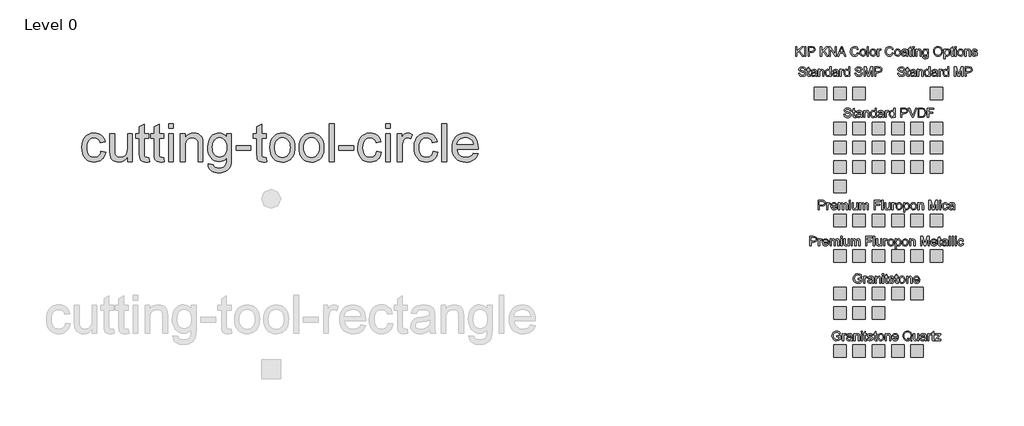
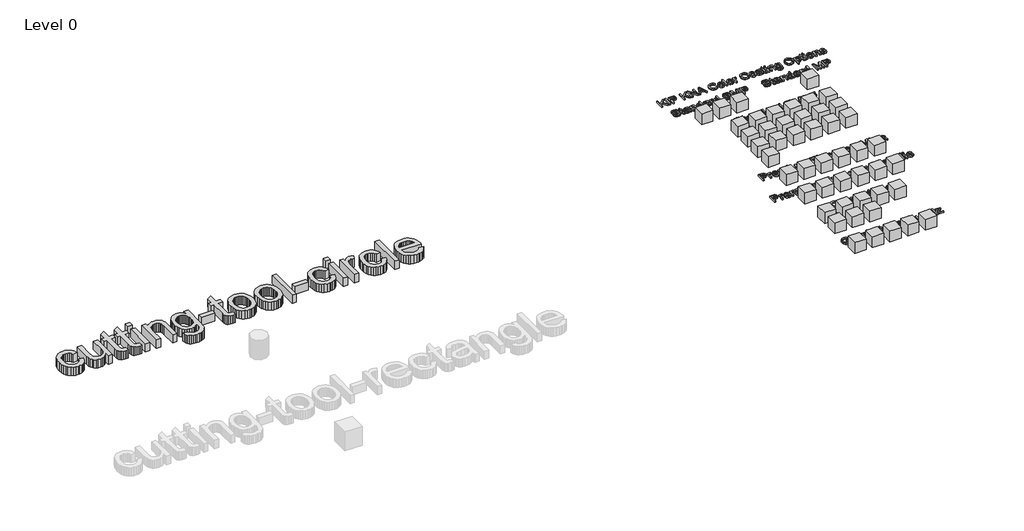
# One storey, part 5 of 5: 50 proxies.
"""IFC4 building model written with IfcOpenShell, lengths in millimetres."""

from ifc_helpers import new_model, si_unit, origin, origin_with_axes, place, context, project, spatial, polyline, outline, extrude, transform, mapped, element, save
from components import ks_color_sample_ks_color_sample_0243efec, r19_kna_color_range_kingspan_quadcore_4278cd54, r19_kna_color_range_kingspan_quadcore_c5814d20, r19_kna_color_range_kingspan_quadcore_91b79b7c

model = new_model("IFC4")

# Units and contexts
model_context = context("Model", 3, world=origin())
ifc_project = project(units=[si_unit("LENGTHUNIT", "METRE", prefix="MILLI")], contexts=[model_context])

# Site, building, storey
site = spatial("IfcSite", under=ifc_project)
building = spatial("IfcBuilding", under=site)
storey = spatial("IfcBuildingStorey", under=building, Name="Level 0", Elevation=0.0)

# Proxies
placement = place(None, origin())
element("IfcBuildingElementProxy", 1, Name="24\" Arial", ObjectType="24\" Arial", at=placement, inside=storey, context=model_context, shape_type="SweptSolid", body=[
    extrude(outline(polyline([(620.0310219, 12708.8914147), (696.1727954, 12699.373693), (687.8912622, 12663.4452231), (674.9438146, 12631.6528725), (657.3304527, 12603.9966411), (635.0511764, 12580.4765291), (609.0447455, 12561.7059832), (580.2499195, 12548.2984505), (548.6666985, 12540.2539308), (514.2950825, 12537.5724243), (471.5908126, 12541.3135209), (433.3015016, 12552.5368109), (399.4271494, 12571.2422942), (369.9677559, 12597.4299708), (346.1223311, 12630.6072243), (329.0898848, 12670.2814382), (318.8704171, 12716.4526125), (315.4639278, 12769.1207472), (321.2823788, 12836.8787464), (328.5554424, 12867.369846), (338.7377316, 12895.6023456), (351.8989561, 12921.0092717), (368.1088259, 12943.0236504), (387.3673409, 12961.6454818), (409.6745011, 12976.874766), (434.021837, 12988.7161502), (459.4008791, 12997.1742818), (485.8116273, 13002.2491607), (513.2540817, 13003.9407871), (547.0354874, 13001.6171245), (577.5916496, 12994.646137), (604.9225682, 12983.0278244), (629.0282432, 12966.7621867), (649.49971, 12946.22101), (665.928004, 12921.7760803), (678.3131252, 12893.4273975), (686.6550737, 12861.1749617), (610.5133002, 12851.65724), (596.7014501, 12884.8763194), (575.1936298, 12908.689213), (547.1795545, 12923.0215634), (513.8489393, 12927.7990135), (487.9772807, 12925.4474671), (464.6430617, 12918.3928277), (443.8462821, 12906.6350953), (425.586942, 12890.17427), (410.7201492, 12868.6292711), (400.1010115, 12841.6190179), (393.7295289, 12809.1435105), (391.6057013, 12771.2027489), (393.6830556, 12732.6903662), (399.9151185, 12699.8384255), (410.30189, 12672.6469267), (424.84337, 12651.1158697), (442.7402188, 12634.7526383), (463.1930963, 12623.0646158), (486.2020026, 12616.0518023), (511.7669376, 12613.7141978), (551.1948433, 12619.551238), (568.2458789, 12626.8475384), (583.5216363, 12637.0623588), (596.5945617, 12650.3072352), (607.037101, 12666.6937033), (614.8492544, 12686.2217631), (620.0310219, 12708.8914147)])), origin_with_axes(), (0.0, 0.0, 1.0), 152.4),
    extrude(outline(polyline([(1048.3284979, 12547.090146), (1048.3284979, 12623.9754915), (1020.779155, 12586.1741496), (988.6940229, 12559.1731911), (952.0731016, 12542.972616), (910.916391, 12537.5724243), (873.8307372, 12541.3646415), (839.3104067, 12552.7412932), (810.3482771, 12569.8434494), (789.9372255, 12590.81218), (776.1997326, 12616.2795212), (767.2582793, 12646.8775093), (762.7968472, 12717.6655644), (762.7968472, 12994.4230654), (838.9386207, 12994.4230654), (838.9386207, 12753.5057351), (840.0911573, 12705.322269), (843.5487672, 12675.8768176), (854.6465794, 12649.9819224), (873.6634335, 12630.2958535), (899.335257, 12617.8596117), (930.3979776, 12613.7141978), (963.245271, 12617.9525582), (993.9733842, 12630.6676395), (1019.3106003, 12650.6883158), (1035.9852026, 12676.8434612), (1045.2426741, 12712.6650426), (1048.3284979, 12761.6850272), (1048.3284979, 12994.4230654), (1124.4702714, 12994.4230654), (1124.4702714, 12547.090146), (1048.3284979, 12547.090146)])), origin_with_axes(), (0.0, 0.0, 1.0), 152.4),
    extrude(outline(polyline([(1390.9664787, 12610.5911954), (1400.4842004, 12544.8594299), (1370.3323555, 12539.3941757), (1343.5265847, 12537.5724243), (1306.9800205, 12540.7326053), (1279.7281065, 12550.2131484), (1260.4695915, 12564.8243383), (1247.9032246, 12583.3764599), (1240.9880049, 12615.2385204), (1238.6829317, 12669.7795271), (1238.6829317, 12918.2812919), (1181.5766016, 12918.2812919), (1181.5766016, 12994.4230654), (1238.6829317, 12994.4230654), (1238.6829317, 13103.1332928), (1314.8247052, 13147.8963276), (1314.8247052, 12994.4230654), (1390.9664787, 12994.4230654), (1390.9664787, 12918.2812919), (1314.8247052, 12918.2812919), (1314.8247052, 12672.0102431), (1318.839994, 12632.7496412), (1331.8525042, 12618.8448446), (1342.8387806, 12614.9968595), (1357.8031672, 12613.7141978), (1390.9664787, 12610.5911954)])), origin_with_axes(), (0.0, 0.0, 1.0), 152.4),
    extrude(outline(polyline([(1628.909521, 12610.5911954), (1638.4272427, 12544.8594299), (1608.2753978, 12539.3941757), (1581.4696269, 12537.5724243), (1544.9230628, 12540.7326053), (1517.6711487, 12550.2131484), (1498.4126337, 12564.8243383), (1485.8462668, 12583.3764599), (1478.9310472, 12615.2385204), (1476.6259739, 12669.7795271), (1476.6259739, 12918.2812919), (1419.5196438, 12918.2812919), (1419.5196438, 12994.4230654), (1476.6259739, 12994.4230654), (1476.6259739, 13103.1332928), (1552.7677475, 13147.8963276), (1552.7677475, 12994.4230654), (1628.909521, 12994.4230654), (1628.909521, 12918.2812919), (1552.7677475, 12918.2812919), (1552.7677475, 12672.0102431), (1556.7830363, 12632.7496412), (1569.7955464, 12618.8448446), (1580.7818228, 12614.9968595), (1595.7462095, 12613.7141978), (1628.909521, 12610.5911954)])), origin_with_axes(), (0.0, 0.0, 1.0), 152.4),
    extrude(outline(polyline([(1705.0512945, 13080.0825606), (1705.0512945, 13156.2243341), (1781.193068, 13156.2243341), (1781.193068, 13080.0825606), (1705.0512945, 13080.0825606)])), origin_with_axes(), (0.0, 0.0, 1.0), 152.4),
    extrude(outline(polyline([(1705.0512945, 12547.090146), (1705.0512945, 12994.4230654), (1781.193068, 12994.4230654), (1781.193068, 12547.090146), (1705.0512945, 12547.090146)])), origin_with_axes(), (0.0, 0.0, 1.0), 152.4),
    extrude(outline(polyline([(1895.4057283, 12547.090146), (1895.4057283, 12994.4230654), (1971.5475018, 12994.4230654), (1971.5475018, 12931.9630168), (1998.0000759, 12963.4532913), (2029.7691899, 12985.9463445), (2066.8548438, 12999.4421764), (2109.2570375, 13003.9407871), (2146.7888345, 13000.3158735), (2181.1604506, 12989.4411329), (2209.8251514, 12972.6735842), (2230.236203, 12951.3702462), (2244.0852317, 12925.5868868), (2253.0638636, 12895.379274), (2257.0791525, 12821.7656453), (2257.0791525, 12547.090146), (2180.937379, 12547.090146), (2180.937379, 12811.5043516), (2178.7438415, 12850.8764894), (2172.1632293, 12878.8719755), (2160.0244163, 12898.9298304), (2141.1562766, 12914.4890746), (2116.9715971, 12924.4715288), (2088.8831645, 12927.7990135), (2065.7627224, 12925.9307889), (2044.2874334, 12920.3261149), (2024.4572974, 12910.9849915), (2006.2723145, 12897.9074189), (1991.080209, 12879.6062528), (1980.228705, 12854.5943495), (1973.7178026, 12822.8717087), (1971.5475018, 12784.4383306), (1971.5475018, 12547.090146), (1895.4057283, 12547.090146)])), origin_with_axes(), (0.0, 0.0, 1.0), 152.4),
    extrude(outline(polyline([(2342.7386477, 12509.0192592), (2418.8804212, 12499.5015375), (2427.2827849, 12475.7072333), (2443.5670118, 12459.3486491), (2475.5777867, 12446.6335678), (2517.4780693, 12442.3952074), (2562.166747, 12447.1912468), (2580.2169574, 12453.1862961), (2595.4044157, 12461.5793652), (2618.4551479, 12484.6300974), (2632.583016, 12515.4139785), (2636.7098407, 12548.1683254), (2637.7880201, 12604.1964761), (2612.4508039, 12579.2124567), (2584.1764784, 12561.3667285), (2552.9650434, 12550.6592916), (2518.816499, 12547.090146), (2477.0695781, 12551.2448545), (2440.3138843, 12563.7089803), (2408.5494176, 12584.4825233), (2381.7761781, 12613.5654834), (2360.5332553, 12648.4575998), (2345.359739, 12686.6586117), (2336.2556293, 12728.168519), (2333.220926, 12772.9873217), (2338.667591, 12834.4621374), (2355.0075858, 12890.9921992), (2367.1185149, 12916.4827771), (2381.6646423, 12938.8968257), (2398.645968, 12958.2343453), (2418.062492, 12974.4953356), (2439.6028436, 12987.3777206), (2462.9556519, 12996.5794242), (2488.120917, 13002.1004463), (2515.0986389, 13003.9407871), (2550.7064434, 12999.7767838), (2583.0239418, 12987.2847741), (2612.051134, 12966.4647579), (2637.7880201, 12937.3167352), (2637.7880201, 12994.4230654), (2713.9297936, 12994.4230654), (2713.9297936, 12608.2117649), (2708.7247895, 12519.038892), (2702.2185345, 12485.8709332), (2693.1097774, 12460.3152927), (2681.180094, 12439.7044062), (2666.21106, 12421.3707089), (2648.2026755, 12405.3142008), (2627.1549404, 12391.5348821), (2603.2816316, 12380.4742485), (2576.7965262, 12372.5737959), (2547.6996241, 12367.8335244), (2515.9909253, 12366.2534339), (2478.6868472, 12368.4795026), (2445.1471024, 12375.1577086), (2415.3716908, 12386.2880521), (2389.3606125, 12401.870533), (2368.350056, 12421.9237406), (2353.5762097, 12446.4662641), (2345.0390736, 12475.4981037), (2342.7386477, 12509.0192592)]), holes=[polyline([(2409.3626995, 12778.1923257), (2411.3935806, 12740.5443456), (2417.4862237, 12708.352325), (2427.6406289, 12681.616264), (2441.8567962, 12660.3361626), (2459.1401981, 12644.1030562), (2478.4963069, 12632.5079803), (2499.9251226, 12625.5509347), (2523.4266454, 12623.2319195), (2546.6958019, 12625.5369927), (2568.0223765, 12632.4522124), (2587.4063693, 12643.9775785), (2604.8477802, 12660.113091), (2619.2591351, 12681.1840628), (2629.5529601, 12707.5158065), (2635.7292551, 12739.1083221), (2637.7880201, 12775.9616097), (2635.6688399, 12811.2766327), (2629.3112992, 12841.9722146), (2618.7153981, 12868.0483555), (2603.8811366, 12889.5050552), (2586.0632923, 12906.258662), (2566.5166432, 12918.225524), (2545.2411891, 12925.4056411), (2522.2369302, 12927.7990135), (2499.6183992, 12925.4428197), (2478.7565571, 12918.3742384), (2459.6514038, 12906.5932694), (2442.3029394, 12890.0999128), (2427.8915845, 12868.9685258), (2417.5977595, 12843.2734656), (2411.4214645, 12813.0147323), (2409.3626995, 12778.1923257)])]), origin_with_axes(), (0.0, 0.0, 1.0), 152.4),
    extrude(outline(polyline([(2790.0715671, 12727.9268581), (2790.0715671, 12804.0686316), (3028.0146093, 12804.0686316), (3028.0146093, 12727.9268581), (2790.0715671, 12727.9268581)])), origin_with_axes(), (0.0, 0.0, 1.0), 152.4),
    extrude(outline(polyline([(3275.4753733, 12610.5911954), (3284.993095, 12544.8594299), (3254.8412501, 12539.3941757), (3228.0354792, 12537.5724243), (3191.4889151, 12540.7326053), (3164.237001, 12550.2131484), (3144.978486, 12564.8243383), (3132.4121191, 12583.3764599), (3125.4968995, 12615.2385204), (3123.1918262, 12669.7795271), (3123.1918262, 12918.2812919), (3066.0854961, 12918.2812919), (3066.0854961, 12994.4230654), (3123.1918262, 12994.4230654), (3123.1918262, 13103.1332928), (3199.3335998, 13147.8963276), (3199.3335998, 12994.4230654), (3275.4753733, 12994.4230654), (3275.4753733, 12918.2812919), (3199.3335998, 12918.2812919), (3199.3335998, 12672.0102431), (3203.3488886, 12632.7496412), (3216.3613987, 12618.8448446), (3227.3476751, 12614.9968595), (3242.3120618, 12613.7141978), (3275.4753733, 12610.5911954)])), origin_with_axes(), (0.0, 0.0, 1.0), 152.4),
    extrude(outline(polyline([(3332.5817034, 12770.7566057), (3336.6992334, 12828.6901597), (3349.0518234, 12878.6117253), (3369.6394733, 12920.5213025), (3398.4621832, 12954.4188914), (3427.4800808, 12976.0847207), (3459.509445, 12991.5603131), (3494.5502758, 13000.8456686), (3532.6025733, 13003.9407871), (3574.6097444, 13000.1718064), (3612.592332, 12988.8648646), (3646.550336, 12970.0199616), (3676.4837567, 12943.6370973), (3700.9147444, 12910.6085582), (3718.3654499, 12871.8266307), (3728.8358733, 12827.2913148), (3732.3260144, 12777.0026105), (3730.7831025, 12736.2455699), (3726.1543667, 12700.0800864), (3718.4398071, 12668.5061601), (3707.6394237, 12641.5237908), (3693.8879889, 12618.2174558), (3677.3202752, 12597.6716317), (3657.9362824, 12579.8863188), (3635.7360107, 12564.8615169), (3611.5838624, 12552.9225389), (3586.3442401, 12544.3946974), (3560.0171437, 12539.2779926), (3532.6025733, 12537.5724243), (3489.9819553, 12541.3274629), (3451.646171, 12552.5925788), (3417.5952204, 12571.367772), (3387.8291035, 12597.6530424), (3363.658366, 12631.0022469), (3346.3935534, 12670.9692423), (3336.0346659, 12717.5540286), (3332.5817034, 12770.7566057)]), holes=[polyline([(3408.7234769, 12770.9053201), (3410.926309, 12733.9730279), (3417.5348052, 12701.9947843), (3428.5489656, 12674.9705892), (3443.9687901, 12652.9004426), (3462.7253939, 12635.7564605), (3483.7498924, 12623.510759), (3507.0422856, 12616.1633381), (3532.6025733, 12613.7141978), (3558.0327359, 12616.1772801), (3581.2321826, 12623.5665269), (3602.2009132, 12635.8819382), (3620.9389277, 12653.1235142), (3636.3587522, 12675.4120851), (3647.3729126, 12702.8684814), (3653.9814088, 12735.4927032), (3656.1842409, 12773.2847505), (3653.9674668, 12809.0459167), (3647.3171447, 12840.1876418), (3636.2332744, 12866.7099258), (3620.7158561, 12888.6127688), (3601.9081317, 12905.7567509), (3580.9533431, 12918.0024524), (3557.8514903, 12925.3498732), (3532.6025733, 12927.7990135), (3507.0422856, 12925.3591679), (3483.7498924, 12918.039631), (3462.7253939, 12905.8404027), (3443.9687901, 12888.7614832), (3428.5489656, 12866.7563991), (3417.5348052, 12839.7786772), (3410.926309, 12807.8283175), (3408.7234769, 12770.9053201)])]), origin_with_axes(), (0.0, 0.0, 1.0), 152.4),
    extrude(outline(polyline([(3798.9500662, 12770.7566057), (3803.0675962, 12828.6901597), (3815.4201862, 12878.6117253), (3836.0078361, 12920.5213025), (3864.830546, 12954.4188914), (3893.8484436, 12976.0847207), (3925.8778078, 12991.5603131), (3960.9186386, 13000.8456686), (3998.9709361, 13003.9407871), (4040.9781072, 13000.1718064), (4078.9606947, 12988.8648646), (4112.9186988, 12970.0199616), (4142.8521194, 12943.6370973), (4167.2831072, 12910.6085582), (4184.7338127, 12871.8266307), (4195.2042361, 12827.2913148), (4198.6943772, 12777.0026105), (4197.1514653, 12736.2455699), (4192.5227295, 12700.0800864), (4184.8081699, 12668.5061601), (4174.0077865, 12641.5237908), (4160.2563517, 12618.2174558), (4143.688638, 12597.6716317), (4124.3046452, 12579.8863188), (4102.1043735, 12564.8615169), (4077.9522252, 12552.9225389), (4052.7126029, 12544.3946974), (4026.3855065, 12539.2779926), (3998.9709361, 12537.5724243), (3956.3503181, 12541.3274629), (3918.0145338, 12552.5925788), (3883.9635832, 12571.367772), (3854.1974663, 12597.6530424), (3830.0267288, 12631.0022469), (3812.7619162, 12670.9692423), (3802.4030287, 12717.5540286), (3798.9500662, 12770.7566057)]), holes=[polyline([(3875.0918397, 12770.9053201), (3877.2946718, 12733.9730279), (3883.903168, 12701.9947843), (3894.9173284, 12674.9705892), (3910.3371529, 12652.9004426), (3929.0937567, 12635.7564605), (3950.1182552, 12623.510759), (3973.4106483, 12616.1633381), (3998.9709361, 12613.7141978), (4024.4010987, 12616.1772801), (4047.6005453, 12623.5665269), (4068.5692759, 12635.8819382), (4087.3072905, 12653.1235142), (4102.727115, 12675.4120851), (4113.7412754, 12702.8684814), (4120.3497716, 12735.4927032), (4122.5526037, 12773.2847505), (4120.3358296, 12809.0459167), (4113.6855075, 12840.1876418), (4102.6016372, 12866.7099258), (4087.0842189, 12888.6127688), (4068.2764945, 12905.7567509), (4047.3217058, 12918.0024524), (4024.2198531, 12925.3498732), (3998.9709361, 12927.7990135), (3973.4106483, 12925.3591679), (3950.1182552, 12918.039631), (3929.0937567, 12905.8404027), (3910.3371529, 12888.7614832), (3894.9173284, 12866.7563991), (3883.903168, 12839.7786772), (3877.2946718, 12807.8283175), (3875.0918397, 12770.9053201)])]), origin_with_axes(), (0.0, 0.0, 1.0), 152.4),
    extrude(outline(polyline([(4284.3538724, 12547.090146), (4284.3538724, 13156.2243341), (4360.4956459, 13156.2243341), (4360.4956459, 12547.090146), (4284.3538724, 12547.090146)])), origin_with_axes(), (0.0, 0.0, 1.0), 152.4),
    extrude(outline(polyline([(4436.6374194, 12727.9268581), (4436.6374194, 12804.0686316), (4674.5804617, 12804.0686316), (4674.5804617, 12727.9268581), (4436.6374194, 12727.9268581)])), origin_with_axes(), (0.0, 0.0, 1.0), 152.4),
    extrude(outline(polyline([(5045.7716075, 12708.8914147), (5121.9133811, 12699.373693), (5113.6318478, 12663.4452231), (5100.6844003, 12631.6528725), (5083.0710383, 12603.9966411), (5060.7917621, 12580.4765291), (5034.7853311, 12561.7059832), (5005.9905052, 12548.2984505), (4974.4072842, 12540.2539308), (4940.0356682, 12537.5724243), (4897.3313983, 12541.3135209), (4859.0420873, 12552.5368109), (4825.167735, 12571.2422942), (4795.7083416, 12597.4299708), (4771.8629168, 12630.6072243), (4754.8304705, 12670.2814382), (4744.6110027, 12716.4526125), (4741.2045135, 12769.1207472), (4747.0229644, 12836.8787464), (4754.2960281, 12867.369846), (4764.4783173, 12895.6023456), (4777.6395418, 12921.0092717), (4793.8494116, 12943.0236504), (4813.1079266, 12961.6454818), (4835.4150868, 12976.874766), (4859.7624227, 12988.7161502), (4885.1414647, 12997.1742818), (4911.552213, 13002.2491607), (4938.9946673, 13003.9407871), (4972.7760731, 13001.6171245), (5003.3322352, 12994.646137), (5030.6631538, 12983.0278244), (5054.7688288, 12966.7621867), (5075.2402957, 12946.22101), (5091.6685897, 12921.7760803), (5104.0537109, 12893.4273975), (5112.3956594, 12861.1749617), (5036.2538859, 12851.65724), (5022.4420358, 12884.8763194), (5000.9342155, 12908.689213), (4972.9201402, 12923.0215634), (4939.5895249, 12927.7990135), (4913.7178664, 12925.4474671), (4890.3836474, 12918.3928277), (4869.5868678, 12906.6350953), (4851.3275277, 12890.17427), (4836.4607349, 12868.6292711), (4825.8415972, 12841.6190179), (4819.4701145, 12809.1435105), (4817.346287, 12771.2027489), (4819.4236413, 12732.6903662), (4825.6557042, 12699.8384255), (4836.0424756, 12672.6469267), (4850.5839557, 12651.1158697), (4868.4808045, 12634.7526383), (4888.933682, 12623.0646158), (4911.9425883, 12616.0518023), (4937.5075233, 12613.7141978), (4976.935429, 12619.551238), (4993.9864646, 12626.8475384), (5009.262222, 12637.0623588), (5022.3351474, 12650.3072352), (5032.7776867, 12666.6937033), (5040.5898401, 12686.2217631), (5045.7716075, 12708.8914147)])), origin_with_axes(), (0.0, 0.0, 1.0), 152.4),
    extrude(outline(polyline([(5188.5374329, 13080.0825606), (5188.5374329, 13156.2243341), (5264.6792064, 13156.2243341), (5264.6792064, 13080.0825606), (5188.5374329, 13080.0825606)])), origin_with_axes(), (0.0, 0.0, 1.0), 152.4),
    extrude(outline(polyline([(5188.5374329, 12547.090146), (5188.5374329, 12994.4230654), (5264.6792064, 12994.4230654), (5264.6792064, 12547.090146), (5188.5374329, 12547.090146)])), origin_with_axes(), (0.0, 0.0, 1.0), 152.4),
    extrude(outline(polyline([(5378.8918667, 12547.090146), (5378.8918667, 12994.4230654), (5445.5159185, 12994.4230654), (5445.5159185, 12928.2451567), (5470.1281519, 12966.6134723), (5492.8070982, 12989.2180613), (5515.5604016, 13000.2601056), (5540.3957066, 13003.9407871), (5578.317879, 12998.0665682), (5616.8349089, 12980.4439116), (5591.4047463, 12912.1840014), (5564.636154, 12923.8952605), (5537.8675618, 12927.7990135), (5515.1328477, 12924.0439749), (5494.8147426, 12912.778859), (5478.4003905, 12894.8587736), (5467.3769355, 12871.1388266), (5458.119464, 12828.6065078), (5455.0336402, 12782.2076146), (5455.0336402, 12547.090146), (5378.8918667, 12547.090146)])), origin_with_axes(), (0.0, 0.0, 1.0), 152.4),
    extrude(outline(polyline([(5949.9551681, 12708.8914147), (6026.0969416, 12699.373693), (6017.8154084, 12663.4452231), (6004.8679608, 12631.6528725), (5987.2545989, 12603.9966411), (5964.9753226, 12580.4765291), (5938.9688917, 12561.7059832), (5910.1740657, 12548.2984505), (5878.5908447, 12540.2539308), (5844.2192287, 12537.5724243), (5801.5149588, 12541.3135209), (5763.2256478, 12552.5368109), (5729.3512956, 12571.2422942), (5699.8919021, 12597.4299708), (5676.0464773, 12630.6072243), (5659.014031, 12670.2814382), (5648.7945633, 12716.4526125), (5645.388074, 12769.1207472), (5651.206525, 12836.8787464), (5658.4795886, 12867.369846), (5668.6618778, 12895.6023456), (5681.8231023, 12921.0092717), (5698.0329721, 12943.0236504), (5717.2914871, 12961.6454818), (5739.5986473, 12976.874766), (5763.9459832, 12988.7161502), (5789.3250253, 12997.1742818), (5815.7357735, 13002.2491607), (5843.1782279, 13003.9407871), (5876.9596336, 13001.6171245), (5907.5157958, 12994.646137), (5934.8467143, 12983.0278244), (5958.9523893, 12966.7621867), (5979.4238562, 12946.22101), (5995.8521502, 12921.7760803), (6008.2372714, 12893.4273975), (6016.5792199, 12861.1749617), (5940.4374464, 12851.65724), (5926.6255963, 12884.8763194), (5905.117776, 12908.689213), (5877.1037007, 12923.0215634), (5843.7730855, 12927.7990135), (5817.9014269, 12925.4474671), (5794.5672079, 12918.3928277), (5773.7704283, 12906.6350953), (5755.5110882, 12890.17427), (5740.6442954, 12868.6292711), (5730.0251577, 12841.6190179), (5723.6536751, 12809.1435105), (5721.5298475, 12771.2027489), (5723.6072018, 12732.6903662), (5729.8392647, 12699.8384255), (5740.2260362, 12672.6469267), (5754.7675162, 12651.1158697), (5772.664365, 12634.7526383), (5793.1172425, 12623.0646158), (5816.1261488, 12616.0518023), (5841.6910838, 12613.7141978), (5881.1189895, 12619.551238), (5898.1700251, 12626.8475384), (5913.4457825, 12637.0623588), (5926.5187079, 12650.3072352), (5936.9612472, 12666.6937033), (5944.7734006, 12686.2217631), (5949.9551681, 12708.8914147)])), origin_with_axes(), (0.0, 0.0, 1.0), 152.4),
    extrude(outline(polyline([(6092.7209934, 12547.090146), (6092.7209934, 13156.2243341), (6168.8627669, 13156.2243341), (6168.8627669, 12547.090146), (6092.7209934, 12547.090146)])), origin_with_axes(), (0.0, 0.0, 1.0), 152.4),
    extrude(outline(polyline([(6596.2679566, 12680.3382496), (6670.9225861, 12670.8205279), (6659.4762245, 12640.9196386), (6644.0238687, 12614.5693056), (6624.5655187, 12591.7695289), (6601.1011746, 12572.5203086), (6573.8724972, 12557.2306092), (6543.1211473, 12546.3093954), (6508.8471252, 12539.756667), (6471.0504306, 12537.5724243), (6423.8057242, 12541.3414049), (6381.7102539, 12552.6483467), (6344.7640198, 12571.4932498), (6312.9670219, 12597.876114), (6287.3974395, 12631.0626622), (6269.1334521, 12670.3186168), (6258.1750596, 12715.643978), (6254.5222621, 12767.0387456), (6258.2122382, 12820.1762602), (6269.2821665, 12867.012002), (6287.7320469, 12907.545971), (6313.5618795, 12941.7781673), (6345.2752256, 12968.9743134), (6381.3756465, 12988.4001321), (6421.8631423, 13000.0556233), (6466.7377129, 13003.9407871), (6510.1669655, 13000.064918), (6549.4415094, 12988.4373107), (6584.5613448, 12969.0579653), (6615.5264715, 12941.9268817), (6640.8032724, 12907.7690426), (6658.8581302, 12867.3094308), (6669.6910449, 12820.5480462), (6673.3020165, 12767.4848888), (6672.8558733, 12746.9623014), (6330.6640356, 12746.9623014), (6335.0743471, 12716.5780903), (6343.8438495, 12689.9675071), (6356.9725427, 12667.1305518), (6374.4604269, 12648.0672245), (6395.3408583, 12633.0377753), (6418.6471934, 12622.3024545), (6444.3794321, 12615.861262), (6472.5375746, 12613.7141978), (6513.062249, 12617.692308), (6547.1922041, 12629.6266387), (6574.9274399, 12650.2607619), (6596.2679566, 12680.3382496)]), holes=[polyline([(6330.6640356, 12823.104075), (6597.160243, 12823.104075), (6586.8617707, 12863.3313205), (6578.0039691, 12879.150815), (6566.6737907, 12892.1075572), (6545.9095424, 12907.7225694), (6522.2825419, 12918.8761495), (6495.7927891, 12925.5682975), (6466.4402841, 12927.7990135), (6439.6670446, 12926.0190881), (6415.1152263, 12920.6793116), (6392.7848295, 12911.7796841), (6372.675854, 12899.3202057), (6355.8014168, 12883.8771446), (6343.1746347, 12866.0267691), (6334.7955076, 12845.7690792), (6330.6640356, 12823.104075)])]), origin_with_axes(), (0.0, 0.0, 1.0), 152.4),
])
ks_color_sample_ks_color_sample_shape = ks_color_sample_ks_color_sample_0243efec(model_context)
element("IfcBuildingElementProxy", 2, Name="KS_Color Sample : KS_Color Sample", ObjectType="KS_Color Sample : KS_Color Sample", at=placement, inside=storey, context=model_context, shape_type="MappedRepresentation", body=[
    mapped(ks_color_sample_ks_color_sample_shape, transform((12166.5853815, 13639.2290821, 0.0), x_axis=(1.0, 0.0, 0.0), y_axis=(0.0, 1.0, 0.0), z_axis=(0.0, 0.0, 1.0))),
])
element("IfcBuildingElementProxy", 3, Name="KS_Color Sample : KS_Color Sample", ObjectType="KS_Color Sample : KS_Color Sample", at=placement, inside=storey, context=model_context, shape_type="MappedRepresentation", body=[
    mapped(ks_color_sample_ks_color_sample_shape, transform((12476.5853815, 13639.2290821, 0.0), x_axis=(1.0, 0.0, 0.0), y_axis=(0.0, 1.0, 0.0), z_axis=(0.0, 0.0, 1.0))),
])
element("IfcBuildingElementProxy", 4, Name="KS_Color Sample : KS_Color Sample", ObjectType="KS_Color Sample : KS_Color Sample", at=placement, inside=storey, context=model_context, shape_type="MappedRepresentation", body=[
    mapped(ks_color_sample_ks_color_sample_shape, transform((12786.5853815, 13639.2290821, 0.0), x_axis=(1.0, 0.0, 0.0), y_axis=(0.0, 1.0, 0.0), z_axis=(0.0, 0.0, 1.0))),
])
element("IfcBuildingElementProxy", 5, Name="KS_Color Sample : KS_Color Sample", ObjectType="KS_Color Sample : KS_Color Sample", at=placement, inside=storey, context=model_context, shape_type="MappedRepresentation", body=[
    mapped(ks_color_sample_ks_color_sample_shape, transform((14026.5853815, 13639.2290821, 0.0), x_axis=(1.0, 0.0, 0.0), y_axis=(0.0, 1.0, 0.0), z_axis=(0.0, 0.0, 1.0))),
])
element("IfcBuildingElementProxy", 6, Name="KS_Color Sample : KS_Color Sample", ObjectType="KS_Color Sample : KS_Color Sample", at=placement, inside=storey, context=model_context, shape_type="MappedRepresentation", body=[
    mapped(ks_color_sample_ks_color_sample_shape, transform((12786.5853815, 13079.2290821, 0.0), x_axis=(1.0, 0.0, 0.0), y_axis=(0.0, 1.0, 0.0), z_axis=(0.0, 0.0, 1.0))),
])
element("IfcBuildingElementProxy", 7, Name="KS_Color Sample : KS_Color Sample", ObjectType="KS_Color Sample : KS_Color Sample", at=placement, inside=storey, context=model_context, shape_type="MappedRepresentation", body=[
    mapped(ks_color_sample_ks_color_sample_shape, transform((13096.5853815, 13079.2290821, 0.0), x_axis=(1.0, 0.0, 0.0), y_axis=(0.0, 1.0, 0.0), z_axis=(0.0, 0.0, 1.0))),
])
element("IfcBuildingElementProxy", 8, Name="KS_Color Sample : KS_Color Sample", ObjectType="KS_Color Sample : KS_Color Sample", at=placement, inside=storey, context=model_context, shape_type="MappedRepresentation", body=[
    mapped(ks_color_sample_ks_color_sample_shape, transform((13406.5853815, 13079.2290821, 0.0), x_axis=(1.0, 0.0, 0.0), y_axis=(0.0, 1.0, 0.0), z_axis=(0.0, 0.0, 1.0))),
])
element("IfcBuildingElementProxy", 9, Name="KS_Color Sample : KS_Color Sample", ObjectType="KS_Color Sample : KS_Color Sample", at=placement, inside=storey, context=model_context, shape_type="MappedRepresentation", body=[
    mapped(ks_color_sample_ks_color_sample_shape, transform((13716.5853815, 13079.2290821, 0.0), x_axis=(1.0, 0.0, 0.0), y_axis=(0.0, 1.0, 0.0), z_axis=(0.0, 0.0, 1.0))),
])
element("IfcBuildingElementProxy", 10, Name="KS_Color Sample : KS_Color Sample", ObjectType="KS_Color Sample : KS_Color Sample", at=placement, inside=storey, context=model_context, shape_type="MappedRepresentation", body=[
    mapped(ks_color_sample_ks_color_sample_shape, transform((12476.5853815, 11599.2290821, 0.0), x_axis=(1.0, 0.0, 0.0), y_axis=(0.0, 1.0, 0.0), z_axis=(0.0, 0.0, 1.0))),
])
element("IfcBuildingElementProxy", 11, Name="KS_Color Sample : KS_Color Sample", ObjectType="KS_Color Sample : KS_Color Sample", at=placement, inside=storey, context=model_context, shape_type="MappedRepresentation", body=[
    mapped(ks_color_sample_ks_color_sample_shape, transform((12786.5853815, 11599.2290821, 0.0), x_axis=(1.0, 0.0, 0.0), y_axis=(0.0, 1.0, 0.0), z_axis=(0.0, 0.0, 1.0))),
])
element("IfcBuildingElementProxy", 12, Name="KS_Color Sample : KS_Color Sample", ObjectType="KS_Color Sample : KS_Color Sample", at=placement, inside=storey, context=model_context, shape_type="MappedRepresentation", body=[
    mapped(ks_color_sample_ks_color_sample_shape, transform((13096.5853815, 11599.2290821, 0.0), x_axis=(1.0, 0.0, 0.0), y_axis=(0.0, 1.0, 0.0), z_axis=(0.0, 0.0, 1.0))),
])
element("IfcBuildingElementProxy", 13, Name="KS_Color Sample : KS_Color Sample", ObjectType="KS_Color Sample : KS_Color Sample", at=placement, inside=storey, context=model_context, shape_type="MappedRepresentation", body=[
    mapped(ks_color_sample_ks_color_sample_shape, transform((13406.5853815, 11599.2290821, 0.0), x_axis=(1.0, 0.0, 0.0), y_axis=(0.0, 1.0, 0.0), z_axis=(0.0, 0.0, 1.0))),
])
element("IfcBuildingElementProxy", 14, Name="KS_Color Sample : KS_Color Sample", ObjectType="KS_Color Sample : KS_Color Sample", at=placement, inside=storey, context=model_context, shape_type="MappedRepresentation", body=[
    mapped(ks_color_sample_ks_color_sample_shape, transform((14026.5853815, 13079.2290821, 0.0), x_axis=(1.0, 0.0, 0.0), y_axis=(0.0, 1.0, 0.0), z_axis=(0.0, 0.0, 1.0))),
])
element("IfcBuildingElementProxy", 15, Name="KS_Color Sample : KS_Color Sample", ObjectType="KS_Color Sample : KS_Color Sample", at=placement, inside=storey, context=model_context, shape_type="MappedRepresentation", body=[
    mapped(ks_color_sample_ks_color_sample_shape, transform((13716.5853815, 12769.2290821, 0.0), x_axis=(1.0, 0.0, 0.0), y_axis=(0.0, 1.0, 0.0), z_axis=(0.0, 0.0, 1.0))),
])
element("IfcBuildingElementProxy", 16, Name="KS_Color Sample : KS_Color Sample", ObjectType="KS_Color Sample : KS_Color Sample", at=placement, inside=storey, context=model_context, shape_type="MappedRepresentation", body=[
    mapped(ks_color_sample_ks_color_sample_shape, transform((14026.5853815, 12769.2290821, 0.0), x_axis=(1.0, 0.0, 0.0), y_axis=(0.0, 1.0, 0.0), z_axis=(0.0, 0.0, 1.0))),
])
element("IfcBuildingElementProxy", 17, Name="KS_Color Sample : KS_Color Sample", ObjectType="KS_Color Sample : KS_Color Sample", at=placement, inside=storey, context=model_context, shape_type="MappedRepresentation", body=[
    mapped(ks_color_sample_ks_color_sample_shape, transform((12476.5853815, 12769.2290821, 0.0), x_axis=(1.0, 0.0, 0.0), y_axis=(0.0, 1.0, 0.0), z_axis=(0.0, 0.0, 1.0))),
])
element("IfcBuildingElementProxy", 18, Name="KS_Color Sample : KS_Color Sample", ObjectType="KS_Color Sample : KS_Color Sample", at=placement, inside=storey, context=model_context, shape_type="MappedRepresentation", body=[
    mapped(ks_color_sample_ks_color_sample_shape, transform((13096.5853815, 12769.2290821, 0.0), x_axis=(1.0, 0.0, 0.0), y_axis=(0.0, 1.0, 0.0), z_axis=(0.0, 0.0, 1.0))),
])
element("IfcBuildingElementProxy", 19, Name="KS_Color Sample : KS_Color Sample", ObjectType="KS_Color Sample : KS_Color Sample", at=placement, inside=storey, context=model_context, shape_type="MappedRepresentation", body=[
    mapped(ks_color_sample_ks_color_sample_shape, transform((13406.5853815, 12769.2290821, 0.0), x_axis=(1.0, 0.0, 0.0), y_axis=(0.0, 1.0, 0.0), z_axis=(0.0, 0.0, 1.0))),
])
element("IfcBuildingElementProxy", 20, Name="KS_Color Sample : KS_Color Sample", ObjectType="KS_Color Sample : KS_Color Sample", at=placement, inside=storey, context=model_context, shape_type="MappedRepresentation", body=[
    mapped(ks_color_sample_ks_color_sample_shape, transform((12476.5853815, 12459.2290821, 0.0), x_axis=(1.0, 0.0, 0.0), y_axis=(0.0, 1.0, 0.0), z_axis=(0.0, 0.0, 1.0))),
])
element("IfcBuildingElementProxy", 21, Name="KS_Color Sample : KS_Color Sample", ObjectType="KS_Color Sample : KS_Color Sample", at=placement, inside=storey, context=model_context, shape_type="MappedRepresentation", body=[
    mapped(ks_color_sample_ks_color_sample_shape, transform((12786.5853815, 12459.2290821, 0.0), x_axis=(1.0, 0.0, 0.0), y_axis=(0.0, 1.0, 0.0), z_axis=(0.0, 0.0, 1.0))),
])
element("IfcBuildingElementProxy", 22, Name="KS_Color Sample : KS_Color Sample", ObjectType="KS_Color Sample : KS_Color Sample", at=placement, inside=storey, context=model_context, shape_type="MappedRepresentation", body=[
    mapped(ks_color_sample_ks_color_sample_shape, transform((13096.5853815, 12459.2290821, 0.0), x_axis=(1.0, 0.0, 0.0), y_axis=(0.0, 1.0, 0.0), z_axis=(0.0, 0.0, 1.0))),
])
element("IfcBuildingElementProxy", 23, Name="KS_Color Sample : KS_Color Sample", ObjectType="KS_Color Sample : KS_Color Sample", at=placement, inside=storey, context=model_context, shape_type="MappedRepresentation", body=[
    mapped(ks_color_sample_ks_color_sample_shape, transform((13406.5853815, 12459.2290821, 0.0), x_axis=(1.0, 0.0, 0.0), y_axis=(0.0, 1.0, 0.0), z_axis=(0.0, 0.0, 1.0))),
])
element("IfcBuildingElementProxy", 24, Name="KS_Color Sample : KS_Color Sample", ObjectType="KS_Color Sample : KS_Color Sample", at=placement, inside=storey, context=model_context, shape_type="MappedRepresentation", body=[
    mapped(ks_color_sample_ks_color_sample_shape, transform((13716.5853815, 12459.2290821, 0.0), x_axis=(1.0, 0.0, 0.0), y_axis=(0.0, 1.0, 0.0), z_axis=(0.0, 0.0, 1.0))),
])
element("IfcBuildingElementProxy", 25, Name="KS_Color Sample : KS_Color Sample", ObjectType="KS_Color Sample : KS_Color Sample", at=placement, inside=storey, context=model_context, shape_type="MappedRepresentation", body=[
    mapped(ks_color_sample_ks_color_sample_shape, transform((14026.5853815, 12459.2290821, 0.0), x_axis=(1.0, 0.0, 0.0), y_axis=(0.0, 1.0, 0.0), z_axis=(0.0, 0.0, 1.0))),
])
element("IfcBuildingElementProxy", 26, Name="KS_Color Sample : KS_Color Sample", ObjectType="KS_Color Sample : KS_Color Sample", at=placement, inside=storey, context=model_context, shape_type="MappedRepresentation", body=[
    mapped(ks_color_sample_ks_color_sample_shape, transform((12476.5853815, 12149.2290821, 0.0), x_axis=(1.0, 0.0, 0.0), y_axis=(0.0, 1.0, 0.0), z_axis=(0.0, 0.0, 1.0))),
])
element("IfcBuildingElementProxy", 27, Name="KS_Color Sample : KS_Color Sample", ObjectType="KS_Color Sample : KS_Color Sample", at=placement, inside=storey, context=model_context, shape_type="MappedRepresentation", body=[
    mapped(ks_color_sample_ks_color_sample_shape, transform((13716.5853815, 11599.2290821, 0.0), x_axis=(1.0, 0.0, 0.0), y_axis=(0.0, 1.0, 0.0), z_axis=(0.0, 0.0, 1.0))),
])
element("IfcBuildingElementProxy", 28, Name="KS_Color Sample : KS_Color Sample", ObjectType="KS_Color Sample : KS_Color Sample", at=placement, inside=storey, context=model_context, shape_type="MappedRepresentation", body=[
    mapped(ks_color_sample_ks_color_sample_shape, transform((14026.5853815, 11599.2290821, 0.0), x_axis=(1.0, 0.0, 0.0), y_axis=(0.0, 1.0, 0.0), z_axis=(0.0, 0.0, 1.0))),
])
element("IfcBuildingElementProxy", 29, Name="KS_Color Sample : KS_Color Sample", ObjectType="KS_Color Sample : KS_Color Sample", at=placement, inside=storey, context=model_context, shape_type="MappedRepresentation", body=[
    mapped(ks_color_sample_ks_color_sample_shape, transform((12476.5853815, 11029.2290821, 0.0), x_axis=(1.0, 0.0, 0.0), y_axis=(0.0, 1.0, 0.0), z_axis=(0.0, 0.0, 1.0))),
])
element("IfcBuildingElementProxy", 30, Name="KS_Color Sample : KS_Color Sample", ObjectType="KS_Color Sample : KS_Color Sample", at=placement, inside=storey, context=model_context, shape_type="MappedRepresentation", body=[
    mapped(ks_color_sample_ks_color_sample_shape, transform((12786.5853815, 11029.2290821, 0.0), x_axis=(1.0, 0.0, 0.0), y_axis=(0.0, 1.0, 0.0), z_axis=(0.0, 0.0, 1.0))),
])
element("IfcBuildingElementProxy", 31, Name="KS_Color Sample : KS_Color Sample", ObjectType="KS_Color Sample : KS_Color Sample", at=placement, inside=storey, context=model_context, shape_type="MappedRepresentation", body=[
    mapped(ks_color_sample_ks_color_sample_shape, transform((13096.5853815, 11029.2290821, 0.0), x_axis=(1.0, 0.0, 0.0), y_axis=(0.0, 1.0, 0.0), z_axis=(0.0, 0.0, 1.0))),
])
element("IfcBuildingElementProxy", 32, Name="KS_Color Sample : KS_Color Sample", ObjectType="KS_Color Sample : KS_Color Sample", at=placement, inside=storey, context=model_context, shape_type="MappedRepresentation", body=[
    mapped(ks_color_sample_ks_color_sample_shape, transform((13406.5853815, 11029.2290821, 0.0), x_axis=(1.0, 0.0, 0.0), y_axis=(0.0, 1.0, 0.0), z_axis=(0.0, 0.0, 1.0))),
])
element("IfcBuildingElementProxy", 33, Name="KS_Color Sample : KS_Color Sample", ObjectType="KS_Color Sample : KS_Color Sample", at=placement, inside=storey, context=model_context, shape_type="MappedRepresentation", body=[
    mapped(ks_color_sample_ks_color_sample_shape, transform((13716.5853815, 11029.2290821, 0.0), x_axis=(1.0, 0.0, 0.0), y_axis=(0.0, 1.0, 0.0), z_axis=(0.0, 0.0, 1.0))),
])
element("IfcBuildingElementProxy", 34, Name="KS_Color Sample : KS_Color Sample", ObjectType="KS_Color Sample : KS_Color Sample", at=placement, inside=storey, context=model_context, shape_type="MappedRepresentation", body=[
    mapped(ks_color_sample_ks_color_sample_shape, transform((14026.5853815, 11029.2290821, 0.0), x_axis=(1.0, 0.0, 0.0), y_axis=(0.0, 1.0, 0.0), z_axis=(0.0, 0.0, 1.0))),
])
element("IfcBuildingElementProxy", 35, Name="KS_Color Sample : KS_Color Sample", ObjectType="KS_Color Sample : KS_Color Sample", at=placement, inside=storey, context=model_context, shape_type="MappedRepresentation", body=[
    mapped(ks_color_sample_ks_color_sample_shape, transform((12476.5853815, 10429.2290821, 0.0), x_axis=(1.0, 0.0, 0.0), y_axis=(0.0, 1.0, 0.0), z_axis=(0.0, 0.0, 1.0))),
])
element("IfcBuildingElementProxy", 36, Name="KS_Color Sample : KS_Color Sample", ObjectType="KS_Color Sample : KS_Color Sample", at=placement, inside=storey, context=model_context, shape_type="MappedRepresentation", body=[
    mapped(ks_color_sample_ks_color_sample_shape, transform((12786.5853815, 10429.2290821, 0.0), x_axis=(1.0, 0.0, 0.0), y_axis=(0.0, 1.0, 0.0), z_axis=(0.0, 0.0, 1.0))),
])
element("IfcBuildingElementProxy", 37, Name="KS_Color Sample : KS_Color Sample", ObjectType="KS_Color Sample : KS_Color Sample", at=placement, inside=storey, context=model_context, shape_type="MappedRepresentation", body=[
    mapped(ks_color_sample_ks_color_sample_shape, transform((13096.5853815, 10429.2290821, 0.0), x_axis=(1.0, 0.0, 0.0), y_axis=(0.0, 1.0, 0.0), z_axis=(0.0, 0.0, 1.0))),
])
element("IfcBuildingElementProxy", 38, Name="KS_Color Sample : KS_Color Sample", ObjectType="KS_Color Sample : KS_Color Sample", at=placement, inside=storey, context=model_context, shape_type="MappedRepresentation", body=[
    mapped(ks_color_sample_ks_color_sample_shape, transform((13406.5853815, 10429.2290821, 0.0), x_axis=(1.0, 0.0, 0.0), y_axis=(0.0, 1.0, 0.0), z_axis=(0.0, 0.0, 1.0))),
])
element("IfcBuildingElementProxy", 39, Name="KS_Color Sample : KS_Color Sample", ObjectType="KS_Color Sample : KS_Color Sample", at=placement, inside=storey, context=model_context, shape_type="MappedRepresentation", body=[
    mapped(ks_color_sample_ks_color_sample_shape, transform((13716.5853815, 10429.2290821, 0.0), x_axis=(1.0, 0.0, 0.0), y_axis=(0.0, 1.0, 0.0), z_axis=(0.0, 0.0, 1.0))),
])
element("IfcBuildingElementProxy", 40, Name="KS_Color Sample : KS_Color Sample", ObjectType="KS_Color Sample : KS_Color Sample", at=placement, inside=storey, context=model_context, shape_type="MappedRepresentation", body=[
    mapped(ks_color_sample_ks_color_sample_shape, transform((12476.5853815, 10119.2290821, 0.0), x_axis=(1.0, 0.0, 0.0), y_axis=(0.0, 1.0, 0.0), z_axis=(0.0, 0.0, 1.0))),
])
element("IfcBuildingElementProxy", 41, Name="KS_Color Sample : KS_Color Sample", ObjectType="KS_Color Sample : KS_Color Sample", at=placement, inside=storey, context=model_context, shape_type="MappedRepresentation", body=[
    mapped(ks_color_sample_ks_color_sample_shape, transform((12786.5853815, 10119.2290821, 0.0), x_axis=(1.0, 0.0, 0.0), y_axis=(0.0, 1.0, 0.0), z_axis=(0.0, 0.0, 1.0))),
])
element("IfcBuildingElementProxy", 42, Name="KS_Color Sample : KS_Color Sample", ObjectType="KS_Color Sample : KS_Color Sample", at=placement, inside=storey, context=model_context, shape_type="MappedRepresentation", body=[
    mapped(ks_color_sample_ks_color_sample_shape, transform((13096.5853815, 10119.2290821, 0.0), x_axis=(1.0, 0.0, 0.0), y_axis=(0.0, 1.0, 0.0), z_axis=(0.0, 0.0, 1.0))),
])
element("IfcBuildingElementProxy", 43, Name="KS_Color Sample : KS_Color Sample", ObjectType="KS_Color Sample : KS_Color Sample", at=placement, inside=storey, context=model_context, shape_type="MappedRepresentation", body=[
    mapped(ks_color_sample_ks_color_sample_shape, transform((12476.5853815, 9509.2290821, 0.0), x_axis=(1.0, 0.0, 0.0), y_axis=(0.0, 1.0, 0.0), z_axis=(0.0, 0.0, 1.0))),
])
element("IfcBuildingElementProxy", 44, Name="KS_Color Sample : KS_Color Sample", ObjectType="KS_Color Sample : KS_Color Sample", at=placement, inside=storey, context=model_context, shape_type="MappedRepresentation", body=[
    mapped(ks_color_sample_ks_color_sample_shape, transform((12786.5853815, 9509.2290821, 0.0), x_axis=(1.0, 0.0, 0.0), y_axis=(0.0, 1.0, 0.0), z_axis=(0.0, 0.0, 1.0))),
])
element("IfcBuildingElementProxy", 45, Name="KS_Color Sample : KS_Color Sample", ObjectType="KS_Color Sample : KS_Color Sample", at=placement, inside=storey, context=model_context, shape_type="MappedRepresentation", body=[
    mapped(ks_color_sample_ks_color_sample_shape, transform((13096.5853815, 9509.2290821, 0.0), x_axis=(1.0, 0.0, 0.0), y_axis=(0.0, 1.0, 0.0), z_axis=(0.0, 0.0, 1.0))),
])
element("IfcBuildingElementProxy", 46, Name="KS_Color Sample : KS_Color Sample", ObjectType="KS_Color Sample : KS_Color Sample", at=placement, inside=storey, context=model_context, shape_type="MappedRepresentation", body=[
    mapped(ks_color_sample_ks_color_sample_shape, transform((13406.5853815, 9509.2290821, 0.0), x_axis=(1.0, 0.0, 0.0), y_axis=(0.0, 1.0, 0.0), z_axis=(0.0, 0.0, 1.0))),
])
element("IfcBuildingElementProxy", 47, Name="KS_Color Sample : KS_Color Sample", ObjectType="KS_Color Sample : KS_Color Sample", at=placement, inside=storey, context=model_context, shape_type="MappedRepresentation", body=[
    mapped(ks_color_sample_ks_color_sample_shape, transform((13716.5853815, 9509.2290821, 0.0), x_axis=(1.0, 0.0, 0.0), y_axis=(0.0, 1.0, 0.0), z_axis=(0.0, 0.0, 1.0))),
])
element("IfcBuildingElementProxy", 48, Name="KS_Color Sample : KS_Color Sample", ObjectType="KS_Color Sample : KS_Color Sample", at=placement, inside=storey, context=model_context, shape_type="MappedRepresentation", body=[
    mapped(ks_color_sample_ks_color_sample_shape, transform((12476.5853815, 13079.2290821, 0.0), x_axis=(1.0, 0.0, 0.0), y_axis=(0.0, 1.0, 0.0), z_axis=(0.0, 0.0, 1.0))),
])
element("IfcBuildingElementProxy", 49, Name="KS_Color Sample : KS_Color Sample", ObjectType="KS_Color Sample : KS_Color Sample", at=placement, inside=storey, context=model_context, shape_type="MappedRepresentation", body=[
    mapped(ks_color_sample_ks_color_sample_shape, transform((12786.5853815, 12769.2290821, 0.0), x_axis=(1.0, 0.0, 0.0), y_axis=(0.0, 1.0, 0.0), z_axis=(0.0, 0.0, 1.0))),
])
r19_kna_color_range_kingspan_quadcore_shape = r19_kna_color_range_kingspan_quadcore_4278cd54(model_context)
r19_kna_color_range_kingspan_quadcore_2_shape = r19_kna_color_range_kingspan_quadcore_c5814d20(model_context)
r19_kna_color_range_kingspan_quadcore_3_shape = r19_kna_color_range_kingspan_quadcore_91b79b7c(model_context)
element("IfcBuildingElementProxy", 50, Name="R19_KNA_Color Range : Kingspan Quadcore", ObjectType="R19_KNA_Color Range : Kingspan Quadcore", at=placement, inside=storey, context=model_context, shape_type="MappedRepresentation", body=[
    mapped(r19_kna_color_range_kingspan_quadcore_shape, transform((13221.5853815, 13539.2290821, 0.0), x_axis=(1.0, 0.0, 0.0), y_axis=(0.0, 1.0, 0.0), z_axis=(0.0, 0.0, 1.0))),
    mapped(r19_kna_color_range_kingspan_quadcore_2_shape, transform((13221.5853815, 13539.2290821, 0.0), x_axis=(1.0, 0.0, 0.0), y_axis=(0.0, 1.0, 0.0), z_axis=(0.0, 0.0, 1.0))),
    mapped(r19_kna_color_range_kingspan_quadcore_3_shape, transform((13221.5853815, 13539.2290821, 0.0), x_axis=(1.0, 0.0, 0.0), y_axis=(0.0, 1.0, 0.0), z_axis=(0.0, 0.0, 1.0))),
])

save(model, "model.ifc")
